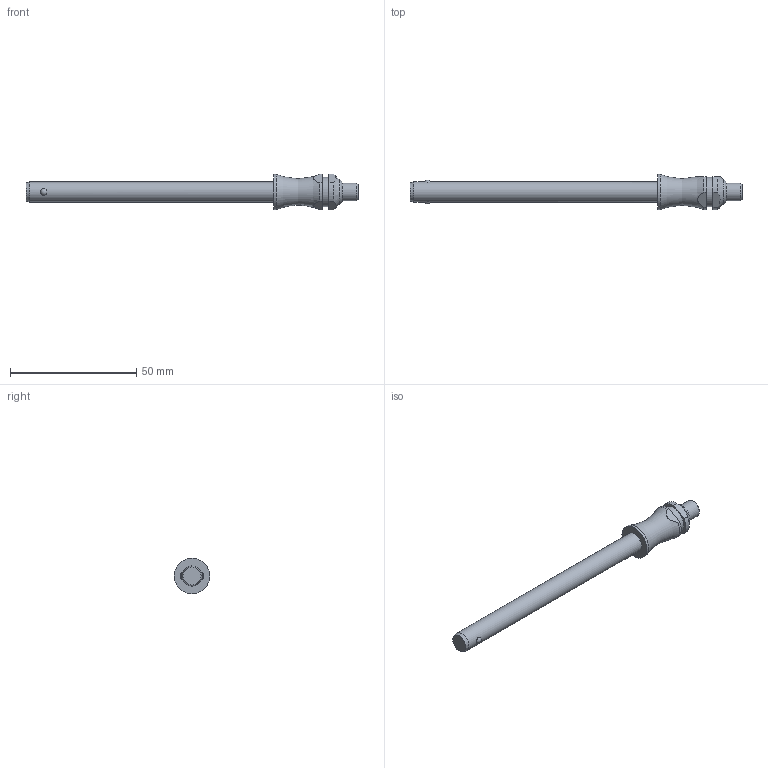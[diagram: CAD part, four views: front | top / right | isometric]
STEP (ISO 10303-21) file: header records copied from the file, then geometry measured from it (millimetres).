
FILE_DESCRIPTION( ( 'STEP AP203' ), '1' );
FILE_NAME( 'C:/Temp/Ganter_Step_05_03_2020/data/3_1/gn113_3/Stainless Steel-Ball lock pin GN 113.3-8-90 (deactivated).stp', '2020-03-12T08:18:28', ( 'License CC BY-ND 4.0' ), ( 'CADENAS' ), ' ', 'PARTsolutions', ' ' );
FILE_SCHEMA( ( 'CONFIG_CONTROL_DESIGN' ) );
Length unit declared in the file: millimetre
Products named in the file (1): _Stainless Steel-Ball lock pin GN 113.3-8-90 (deactivated)
Bounding box: 131.5 x 14 x 14 mm (x, y, z)
Volume: 8155.9 mm3; surface area: 3925.3 mm2
Topology: 1 solids, 1 shells, 28 faces, 60 edges, 39 vertices
Faces by surface type: plane 11, cylinder 10, cone 3, torus 2, sphere 2
Full cylindrical faces by diameter (mm): 7 x1, 8 x1, 11.6 x1, 14 x1
Entity records: 916 total; most frequent: CARTESIAN_POINT 303, DIRECTION 122, ORIENTED_EDGE 98, AXIS2_PLACEMENT_3D 52, EDGE_CURVE 49, EDGE_LOOP 42, VERTEX_POINT 37, FACE_OUTER_BOUND 34
